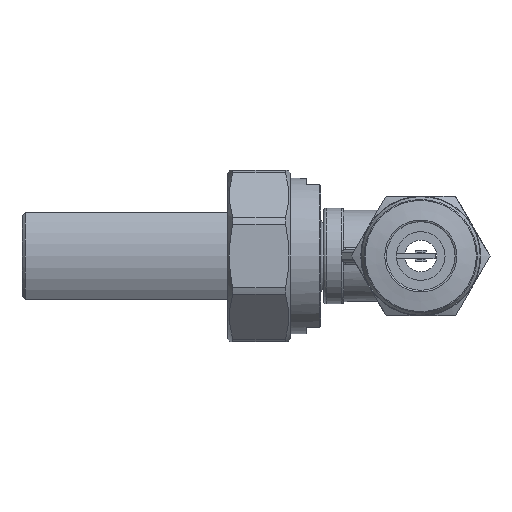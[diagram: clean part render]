
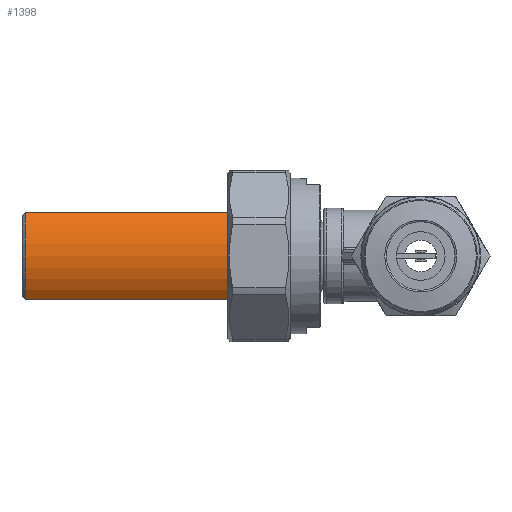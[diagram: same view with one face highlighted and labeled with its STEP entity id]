
A CAD part, left-side view. The second image highlights one B-rep face of the part: STEP entity #1398.
In plain terms, the highlighted cylindrical face has radius 12.5 mm (diameter 25 mm), a partial arc.
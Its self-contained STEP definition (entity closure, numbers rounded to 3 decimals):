
#247=CYLINDRICAL_SURFACE('',#5144,12.5);
#430=FACE_OUTER_BOUND('',#2136,.T.);
#822=LINE('',#11648,#1069);
#823=LINE('',#11652,#1070);
#1069=VECTOR('',#6285,1.);
#1070=VECTOR('',#6290,1.);
#1398=ADVANCED_FACE('',(#430),#247,.T.);
#2136=EDGE_LOOP('',(#3309,#3310,#3311,#3312));
#3309=ORIENTED_EDGE('',*,*,#4437,.T.);
#3310=ORIENTED_EDGE('',*,*,#4443,.F.);
#3311=ORIENTED_EDGE('',*,*,#4444,.F.);
#3312=ORIENTED_EDGE('',*,*,#4445,.F.);
#3825=VERTEX_POINT('',#11628);
#3826=VERTEX_POINT('',#11635);
#3829=VERTEX_POINT('',#11647);
#3830=VERTEX_POINT('',#11651);
#4437=EDGE_CURVE('',#3826,#3825,#4676,.T.);
#4443=EDGE_CURVE('',#3829,#3825,#822,.T.);
#4444=EDGE_CURVE('',#3830,#3829,#4678,.T.);
#4445=EDGE_CURVE('',#3826,#3830,#823,.T.);
#4676=CIRCLE('',#5137,12.5);
#4678=CIRCLE('',#5143,12.5);
#5137=AXIS2_PLACEMENT_3D('',#11636,#6271,#6272);
#5143=AXIS2_PLACEMENT_3D('',#11650,#6288,#6289);
#5144=AXIS2_PLACEMENT_3D('',#11653,#6291,#6292);
#6271=DIRECTION('',(0.,-1.,0.));
#6272=DIRECTION('',(-0.788,0.,0.616));
#6285=DIRECTION('',(0.,1.,0.));
#6288=DIRECTION('',(0.,-1.,0.));
#6289=DIRECTION('',(-0.788,0.,0.616));
#6290=DIRECTION('',(0.,-1.,0.));
#6291=DIRECTION('',(0.,1.,0.));
#6292=DIRECTION('',(-0.788,0.,-0.616));
#11628=CARTESIAN_POINT('',(-9.847,69.2,-7.7));
#11635=CARTESIAN_POINT('',(-9.847,69.2,7.7));
#11636=CARTESIAN_POINT('',(0.,69.2,0.));
#11647=CARTESIAN_POINT('',(-9.847,33.8,-7.7));
#11648=CARTESIAN_POINT('',(-9.847,33.8,-7.7));
#11650=CARTESIAN_POINT('',(0.,33.8,0.));
#11651=CARTESIAN_POINT('',(-9.847,33.8,7.7));
#11652=CARTESIAN_POINT('',(-9.847,69.2,7.7));
#11653=CARTESIAN_POINT('',(0.,33.8,0.));
